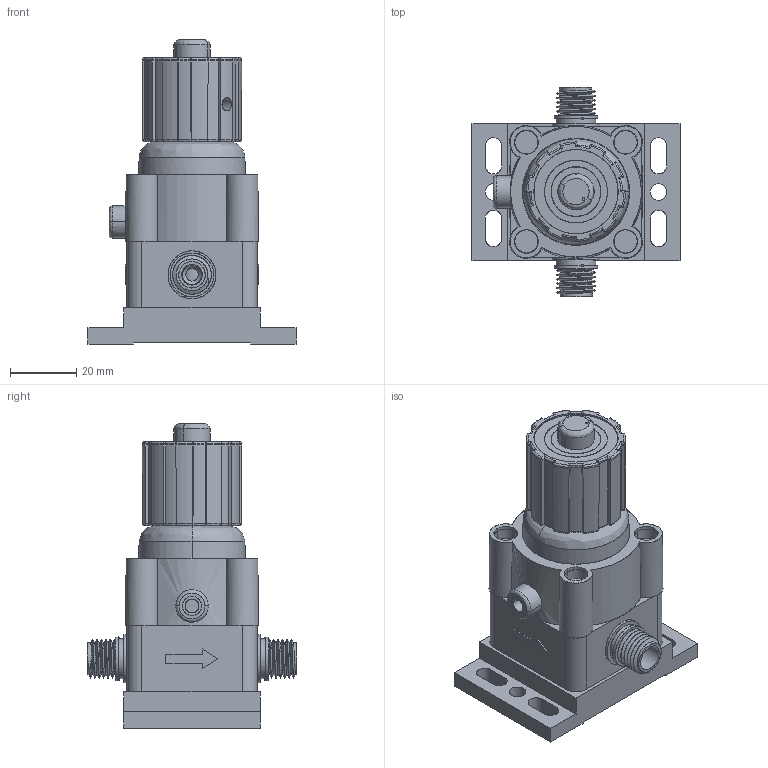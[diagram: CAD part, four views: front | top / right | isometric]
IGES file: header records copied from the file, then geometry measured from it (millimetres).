
Bounding box: 63 x 63.4 x 92.15 mm (x, y, z)
Surface area: 58201.2 mm2 (no closed solid volume)
Topology: 0 solids, 0 shells, 1264 faces, 8151 edges, 8099 vertices
Faces by surface type: bspline 1264
